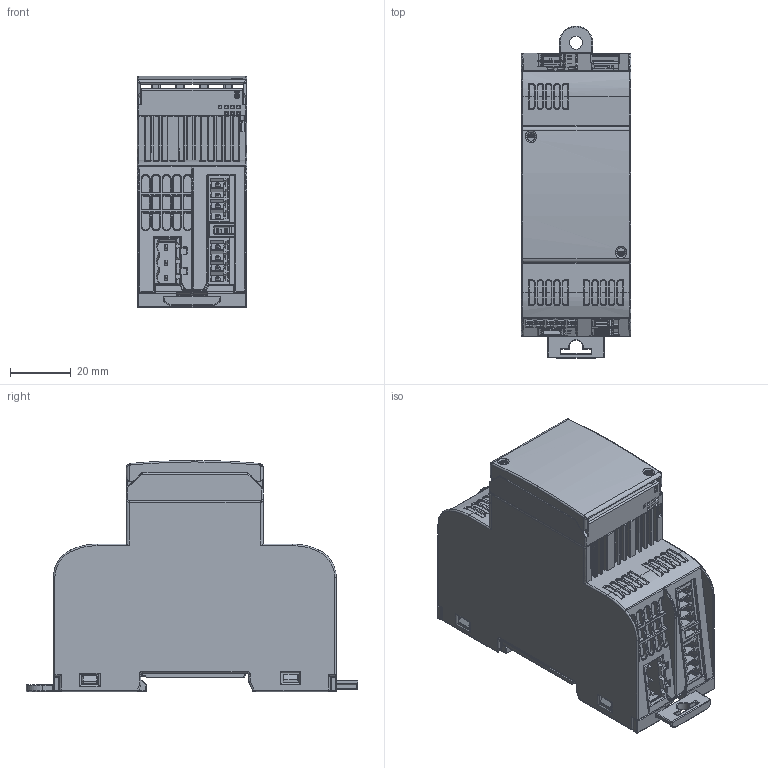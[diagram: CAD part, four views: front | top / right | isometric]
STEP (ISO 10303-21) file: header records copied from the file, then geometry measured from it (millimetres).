
FILE_DESCRIPTION (( 'STEP AP203' ), '1' );
FILE_NAME ('MRCDB425-D-2.STEP', '2025-11-28T14:32:53', ( 'Administrator' ), ( '' ), 'SwSTEP 2.0', 'SolidWorks 2024', '' );
FILE_SCHEMA (( 'CONFIG_CONTROL_DESIGN' ));
Length unit declared in the file: millimetre
Products named in the file (1): MRCDB425-D-2
Bounding box: 36.07 x 109.15 x 76 mm (x, y, z)
Volume: 178159 mm3; surface area: 39460.5 mm2
Topology: 3 solids, 29 shells, 4050 faces, 9985 edges, 5925 vertices
Faces by surface type: plane 1809, cylinder 1434, torus 366, sphere 187, bspline 161, cone 93
Entity records: 126567 total; most frequent: CARTESIAN_POINT 33350, ORIENTED_EDGE 19594, DIRECTION 19415, EDGE_CURVE 9797, AXIS2_PLACEMENT_3D 6719, LINE 5977, VECTOR 5977, VERTEX_POINT 5922
